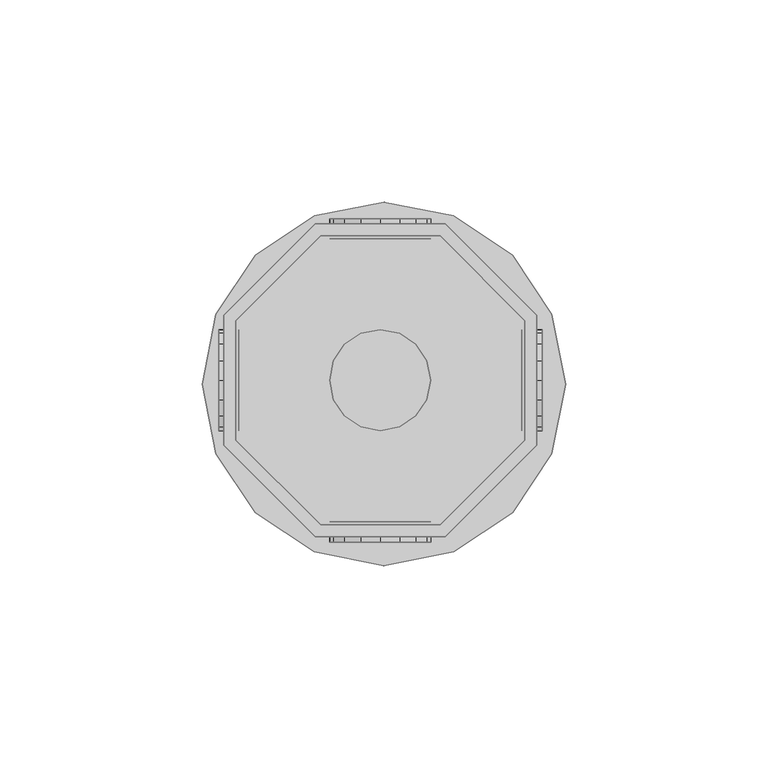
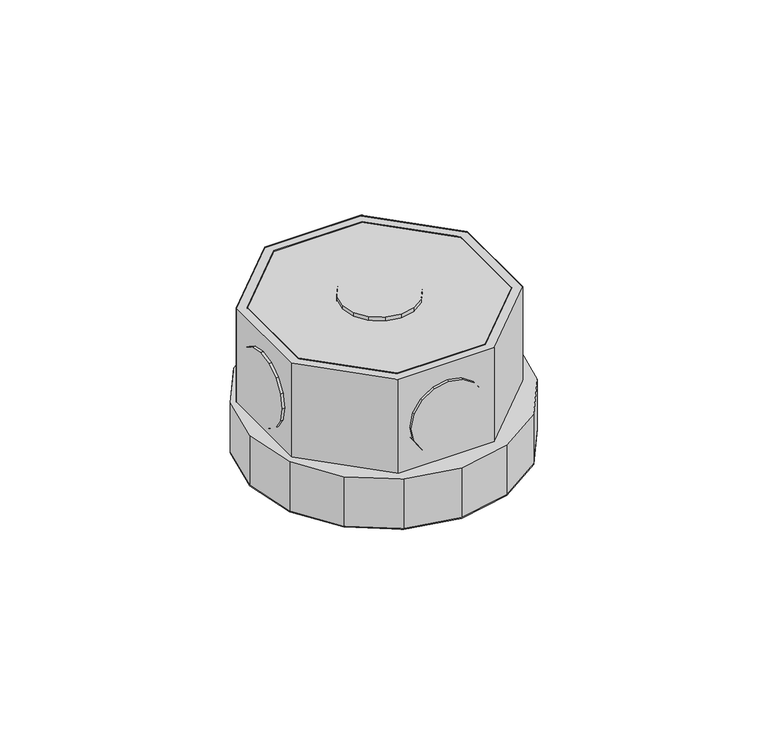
"""IFC4 building model written with IfcOpenShell, lengths in millimetres: light fixture geometry,  212550 :  212550."""

from ifc_helpers import new_model, si_unit, origin, place, context, project, spatial, triangles, source, transform, mapped, element, save


def light_fixture_d3ff9f6c(model_context):
    return source(origin(), model_context, "Body", "Tessellation", [
        triangles([(27650.000647, 17688.1005707, 2924.5999741), (27620.4001282, 17688.1005707, 2975.400071), (27620.4001282, 17688.1005707, 2924.5999741), (27650.000647, 17688.1005707, 2975.400071), (27651.2005737, 17613.6004669, 2924.5999741), (27619.1002075, 17613.6004669, 2975.400071), (27619.1002075, 17613.6004669, 2924.5999741), (27651.2005737, 17613.6004669, 2975.400071), (27599.3990845, 17667.099527, 2975.400071), (27599.3990845, 17667.099527, 2924.5999741), (27673.8991882, 17636.3002441, 2924.5999741), (27673.8991882, 17636.3002441, 2975.400071), (27599.3990845, 17637.5001709, 2975.400071), (27599.3990845, 17637.5001709, 2924.5999741), (27673.8991882, 17668.3994476, 2924.5999741), (27673.8991882, 17668.3994476, 2975.400071), (27620.4001282, 17616.6002838, 2975.400071), (27620.4001282, 17616.6002838, 2924.5999741), (27651.2005737, 17691.1003876, 2924.5999741), (27651.2005737, 17691.1003876, 2975.400071), (27650.000647, 17616.6002838, 2924.5999741), (27650.000647, 17616.6002838, 2975.400071), (27619.1002075, 17691.1003876, 2975.400071), (27619.1002075, 17691.1003876, 2924.5999741), (27670.8993713, 17637.5001709, 2924.5999741), (27670.8993713, 17637.5001709, 2975.400071), (27596.3992676, 17668.3994476, 2975.400071), (27596.3992676, 17668.3994476, 2924.5999741), (27596.3992676, 17636.3002441, 2975.400071), (27670.8993713, 17667.099527, 2975.400071), (27670.8993713, 17667.099527, 2924.5999741), (27596.3992676, 17636.3002441, 2924.5999741), (27599.3990845, 17637.5001709, 2972.3999634), (27620.4001282, 17616.6002838, 2972.3999634), (27650.000647, 17616.6002838, 2972.3999634), (27670.8993713, 17637.5001709, 2972.3999634), (27670.8993713, 17667.099527, 2972.3999634), (27650.000647, 17688.1005707, 2972.3999634), (27620.4001282, 17688.1005707, 2972.3999634), (27599.3990845, 17667.099527, 2972.3999634), (27596.3992676, 17668.3994476, 2942.4000504), (27619.1002075, 17691.1003876, 2942.4000504), (27651.2005737, 17691.1003876, 2942.4000504), (27673.8991882, 17668.3994476, 2942.4000504), (27673.8991882, 17636.3002441, 2942.4000504), (27651.2005737, 17613.6004669, 2942.4000504), (27619.1002075, 17613.6004669, 2942.4000504), (27596.3992676, 17636.3002441, 2942.4000504), (27618.8002258, 17609.89953, 2942.4000504), (27594.4993835, 17634.2003723, 2942.4000504), (27604.2011169, 17619.6001007, 2942.4000504), (27591.0995911, 17651.4004852, 2942.4000504), (27594.4993835, 17668.6994293, 2942.4000504), (27604.2011169, 17683.2997009, 2942.4000504), (27618.8002258, 17693.0002716, 2942.4000504), (27636.0991699, 17696.4000641, 2942.4000504), (27653.3004456, 17693.0002716, 2942.4000504), (27677.5989624, 17668.6994293, 2942.4000504), (27667.8995544, 17683.2997009, 2942.4000504), (27636.0991699, 17606.3997437, 2942.4000504), (27653.3004456, 17609.89953, 2942.4000504), (27667.8995544, 17619.6001007, 2942.4000504), (27677.5989624, 17634.2003723, 2942.4000504), (27681.1010742, 17651.4004852, 2942.4000504), (27594.4993835, 17634.2003723, 2924.5999741), (27618.8002258, 17609.89953, 2924.5999741), (27604.2011169, 17619.6001007, 2924.5999741), (27591.0995911, 17651.4004852, 2924.5999741), (27594.4993835, 17668.6994293, 2924.5999741), (27604.2011169, 17683.2997009, 2924.5999741), (27618.8002258, 17693.0002716, 2924.5999741), (27636.0991699, 17696.4000641, 2924.5999741), (27653.3004456, 17693.0002716, 2924.5999741), (27677.5989624, 17668.6994293, 2924.5999741), (27667.8995544, 17683.2997009, 2924.5999741), (27636.0991699, 17606.3997437, 2924.5999741), (27653.3004456, 17609.89953, 2924.5999741), (27667.8995544, 17619.6001007, 2924.5999741), (27677.5989624, 17634.2003723, 2924.5999741), (27681.1010742, 17651.4004852, 2924.5999741), (27623.5999329, 17692.3003143, 2952.6000092), (27630.3995178, 17692.3003143, 2945.9001274), (27626.2997681, 17692.3003143, 2948.5999626), (27622.6999878, 17692.3003143, 2957.4000069), (27635.1992249, 17692.3003143, 2944.8998978), (27623.5999329, 17692.3003143, 2962.2000046), (27639.9989319, 17692.3003143, 2945.9001274), (27626.2997681, 17692.3003143, 2966.2000511), (27644.0010132, 17692.3003143, 2948.5999626), (27630.3995178, 17692.3003143, 2968.8998863), (27646.7008484, 17692.3003143, 2952.6000092), (27635.1992249, 17692.3003143, 2969.900116), (27647.7007874, 17692.3003143, 2957.4000069), (27639.9989319, 17692.3003143, 2968.8998863), (27646.7008484, 17692.3003143, 2962.2000046), (27644.0010132, 17692.3003143, 2966.2000511), (27630.3995178, 17687.2994568, 2945.9001274), (27623.5999329, 17687.2994568, 2952.6000092), (27626.2997681, 17687.2994568, 2948.5999626), (27635.1992249, 17687.2994568, 2944.8998978), (27622.6999878, 17687.2994568, 2957.4000069), (27639.9989319, 17687.2994568, 2945.9001274), (27623.5999329, 17687.2994568, 2962.2000046), (27644.0010132, 17687.2994568, 2948.5999626), (27626.2997681, 17687.2994568, 2966.2000511), (27630.3995178, 17687.2994568, 2968.8998863), (27646.7008484, 17687.2994568, 2952.6000092), (27635.1992249, 17687.2994568, 2969.900116), (27647.7007874, 17687.2994568, 2957.4000069), (27639.9989319, 17687.2994568, 2968.8998863), (27646.7008484, 17687.2994568, 2962.2000046), (27644.0010132, 17687.2994568, 2966.2000511), (27623.5999329, 17617.3002411, 2952.6000092), (27630.3995178, 17617.3002411, 2945.9001274), (27626.2997681, 17617.3002411, 2948.5999626), (27622.6999878, 17617.3002411, 2957.4000069), (27635.1992249, 17617.3002411, 2944.8998978), (27623.5999329, 17617.3002411, 2962.2000046), (27639.9989319, 17617.3002411, 2945.9001274), (27626.2997681, 17617.3002411, 2966.2000511), (27644.0010132, 17617.3002411, 2948.5999626), (27630.3995178, 17617.3002411, 2968.8998863), (27646.7008484, 17617.3002411, 2952.6000092), (27635.1992249, 17617.3002411, 2969.900116), (27647.7007874, 17617.3002411, 2957.4000069), (27639.9989319, 17617.3002411, 2968.8998863), (27646.7008484, 17617.3002411, 2962.2000046), (27644.0010132, 17617.3002411, 2966.2000511), (27630.3995178, 17612.3005463, 2945.9001274), (27623.5999329, 17612.3005463, 2952.6000092), (27626.2997681, 17612.3005463, 2948.5999626), (27635.1992249, 17612.3005463, 2944.8998978), (27622.6999878, 17612.3005463, 2957.4000069), (27639.9989319, 17612.3005463, 2945.9001274), (27623.5999329, 17612.3005463, 2962.2000046), (27644.0010132, 17612.3005463, 2948.5999626), (27626.2997681, 17612.3005463, 2966.2000511), (27630.3995178, 17612.3005463, 2968.8998863), (27646.7008484, 17612.3005463, 2952.6000092), (27635.1992249, 17612.3005463, 2969.900116), (27647.7007874, 17612.3005463, 2957.4000069), (27639.9989319, 17612.3005463, 2968.8998863), (27646.7008484, 17612.3005463, 2962.2000046), (27644.0010132, 17612.3005463, 2966.2000511), (27600.1990356, 17647.4995605, 2945.9001274), (27600.1990356, 17640.7999695, 2952.6000092), (27600.1990356, 17643.4998047, 2948.5999626), (27600.1990356, 17652.3004303, 2944.8998978), (27600.1990356, 17639.8000305, 2957.4000069), (27600.1990356, 17657.1001373, 2945.9001274), (27600.1990356, 17640.7999695, 2962.2000046), (27600.1990356, 17661.1998871, 2948.5999626), (27600.1990356, 17643.4998047, 2966.2000511), (27600.1990356, 17647.4995605, 2968.8998863), (27600.1990356, 17663.8997223, 2952.6000092), (27600.1990356, 17652.3004303, 2969.900116), (27600.1990356, 17664.7996674, 2957.4000069), (27600.1990356, 17657.1001373, 2968.8998863), (27600.1990356, 17663.8997223, 2962.2000046), (27600.1990356, 17661.1998871, 2966.2000511), (27595.1993408, 17640.7999695, 2952.6000092), (27595.1993408, 17647.4995605, 2945.9001274), (27595.1993408, 17643.4998047, 2948.5999626), (27595.1993408, 17639.8000305, 2957.4000069), (27595.1993408, 17652.3004303, 2944.8998978), (27595.1993408, 17640.7999695, 2962.2000046), (27595.1993408, 17657.1001373, 2945.9001274), (27595.1993408, 17643.4998047, 2966.2000511), (27595.1993408, 17661.1998871, 2948.5999626), (27595.1993408, 17647.4995605, 2968.8998863), (27595.1993408, 17663.8997223, 2952.6000092), (27595.1993408, 17652.3004303, 2969.900116), (27595.1993408, 17664.7996674, 2957.4000069), (27595.1993408, 17657.1001373, 2968.8998863), (27595.1993408, 17663.8997223, 2962.2000046), (27595.1993408, 17661.1998871, 2966.2000511), (27675.1991089, 17647.4995605, 2945.9001274), (27675.1991089, 17640.7999695, 2952.6000092), (27675.1991089, 17643.4998047, 2948.5999626), (27675.1991089, 17652.3004303, 2944.8998978), (27675.1991089, 17639.8000305, 2957.4000069), (27675.1991089, 17657.1001373, 2945.9001274), (27675.1991089, 17640.7999695, 2962.2000046), (27675.1991089, 17661.1998871, 2948.5999626), (27675.1991089, 17643.4998047, 2966.2000511), (27675.1991089, 17647.4995605, 2968.8998863), (27675.1991089, 17663.8997223, 2952.6000092), (27675.1991089, 17652.3004303, 2969.900116), (27675.1991089, 17664.7996674, 2957.4000069), (27675.1991089, 17657.1001373, 2968.8998863), (27675.1991089, 17663.8997223, 2962.2000046), (27675.1991089, 17661.1998871, 2966.2000511), (27670.1994141, 17640.7999695, 2952.6000092), (27670.1994141, 17647.4995605, 2945.9001274), (27670.1994141, 17643.4998047, 2948.5999626), (27670.1994141, 17639.8000305, 2957.4000069), (27670.1994141, 17652.3004303, 2944.8998978), (27670.1994141, 17640.7999695, 2962.2000046), (27670.1994141, 17657.1001373, 2945.9001274), (27670.1994141, 17643.4998047, 2966.2000511), (27670.1994141, 17661.1998871, 2948.5999626), (27670.1994141, 17647.4995605, 2968.8998863), (27670.1994141, 17663.8997223, 2952.6000092), (27670.1994141, 17652.3004303, 2969.900116), (27670.1994141, 17664.7996674, 2957.4000069), (27670.1994141, 17657.1001373, 2968.8998863), (27670.1994141, 17663.8997223, 2962.2000046), (27670.1994141, 17661.1998871, 2966.2000511), (27630.3995178, 17640.7999695, 2976.9999733), (27623.5999329, 17647.4995605, 2976.9999733), (27626.2997681, 17643.4998047, 2976.9999733), (27622.6999878, 17652.3004303, 2976.9999733), (27635.1992249, 17639.8000305, 2976.9999733), (27623.5999329, 17657.1001373, 2976.9999733), (27639.9989319, 17640.7999695, 2976.9999733), (27626.2997681, 17661.1998871, 2976.9999733), (27644.0010132, 17643.4998047, 2976.9999733), (27630.3995178, 17663.8997223, 2976.9999733), (27646.7008484, 17647.4995605, 2976.9999733), (27635.1992249, 17664.7996674, 2976.9999733), (27647.7007874, 17652.3004303, 2976.9999733), (27639.9989319, 17663.8997223, 2976.9999733), (27646.7008484, 17657.1001373, 2976.9999733), (27644.0010132, 17661.1998871, 2976.9999733), (27623.5999329, 17647.4995605, 2971.9999878), (27630.3995178, 17640.7999695, 2971.9999878), (27626.2997681, 17643.4998047, 2971.9999878), (27622.6999878, 17652.3004303, 2971.9999878), (27635.1992249, 17639.8000305, 2971.9999878), (27623.5999329, 17657.1001373, 2971.9999878), (27639.9989319, 17640.7999695, 2971.9999878), (27626.2997681, 17661.1998871, 2971.9999878), (27644.0010132, 17643.4998047, 2971.9999878), (27630.3995178, 17663.8997223, 2971.9999878), (27646.7008484, 17647.4995605, 2971.9999878), (27635.1992249, 17664.7996674, 2971.9999878), (27647.7007874, 17652.3004303, 2971.9999878), (27639.9989319, 17663.8997223, 2971.9999878), (27646.7008484, 17657.1001373, 2971.9999878), (27644.0010132, 17661.1998871, 2971.9999878)], [[1, 2, 3], [2, 1, 4], [5, 6, 7], [6, 5, 8], [3, 9, 10], [9, 3, 2], [11, 8, 5], [8, 11, 12], [10, 13, 14], [13, 10, 9], [15, 12, 11], [12, 15, 16], [14, 17, 18], [17, 14, 13], [19, 16, 15], [16, 19, 20], [17, 21, 18], [21, 17, 22], [23, 19, 24], [19, 23, 20], [22, 25, 21], [25, 22, 26], [27, 24, 28], [24, 27, 23], [6, 13, 29], [29, 13, 27], [27, 13, 9], [27, 9, 23], [23, 9, 2], [23, 2, 4], [23, 4, 20], [20, 4, 30], [8, 17, 6], [6, 17, 13], [17, 8, 22], [12, 22, 8], [22, 12, 26], [30, 26, 12], [16, 30, 12], [20, 30, 16], [30, 1, 31], [1, 30, 4], [6, 32, 7], [32, 6, 29], [32, 14, 7], [28, 14, 32], [14, 28, 10], [24, 10, 28], [10, 24, 3], [1, 3, 24], [19, 1, 24], [31, 1, 19], [7, 18, 5], [14, 18, 7], [5, 18, 21], [5, 21, 11], [11, 21, 25], [11, 25, 31], [11, 31, 15], [15, 31, 19], [26, 31, 25], [31, 26, 30], [29, 28, 32], [28, 29, 27], [17, 33, 34], [33, 17, 13], [35, 17, 34], [17, 35, 22], [36, 22, 35], [22, 36, 26], [37, 26, 36], [26, 37, 30], [38, 30, 37], [30, 38, 4], [2, 38, 39], [38, 2, 4], [17, 9, 13], [9, 17, 22], [9, 22, 2], [2, 22, 26], [2, 26, 4], [4, 26, 30], [13, 40, 33], [40, 13, 9], [40, 34, 33], [35, 34, 40], [35, 40, 39], [35, 39, 36], [36, 39, 38], [36, 38, 37], [9, 39, 40], [39, 9, 2], [24, 41, 28], [41, 24, 42], [19, 42, 24], [42, 19, 43], [44, 19, 15], [19, 44, 43], [45, 15, 11], [15, 45, 44], [46, 11, 5], [11, 46, 45], [47, 5, 7], [5, 47, 46], [32, 47, 7], [47, 32, 48], [28, 48, 32], [48, 28, 41], [49, 50, 51], [48, 50, 49], [50, 48, 52], [41, 52, 48], [52, 41, 53], [53, 41, 54], [42, 54, 41], [54, 42, 55], [55, 42, 43], [55, 43, 56], [56, 43, 57], [57, 43, 44], [57, 44, 58], [57, 58, 59], [47, 49, 60], [49, 47, 48], [47, 60, 46], [61, 46, 60], [46, 61, 62], [46, 62, 45], [45, 62, 63], [44, 45, 63], [44, 63, 64], [44, 64, 58], [65, 66, 67], [66, 65, 32], [68, 32, 65], [32, 68, 28], [28, 68, 69], [70, 28, 69], [28, 70, 24], [71, 24, 70], [19, 24, 71], [19, 71, 72], [73, 19, 72], [19, 73, 15], [74, 15, 73], [74, 73, 75], [76, 66, 7], [32, 7, 66], [5, 76, 7], [76, 5, 77], [77, 5, 78], [11, 78, 5], [78, 11, 79], [79, 11, 15], [79, 15, 80], [80, 15, 74], [57, 75, 73], [75, 57, 59], [56, 73, 72], [73, 56, 57], [55, 72, 71], [72, 55, 56], [54, 71, 70], [71, 54, 55], [53, 70, 69], [70, 53, 54], [52, 69, 68], [69, 52, 53], [50, 68, 65], [68, 50, 52], [51, 65, 67], [65, 51, 50], [66, 51, 67], [51, 66, 49], [76, 49, 66], [49, 76, 60], [77, 60, 76], [60, 77, 61], [78, 61, 77], [61, 78, 62], [79, 62, 78], [62, 79, 63], [80, 63, 79], [63, 80, 64], [75, 58, 74], [58, 75, 59], [74, 64, 80], [64, 74, 58], [81, 82, 83], [82, 81, 84], [85, 82, 84], [85, 84, 86], [87, 85, 86], [87, 86, 88], [87, 88, 89], [89, 88, 90], [89, 90, 91], [91, 90, 92], [91, 92, 93], [93, 92, 94], [93, 94, 95], [95, 94, 96], [97, 98, 99], [98, 97, 100], [101, 98, 100], [101, 100, 102], [103, 101, 102], [103, 102, 104], [103, 104, 105], [105, 104, 106], [106, 104, 107], [106, 107, 108], [108, 107, 109], [108, 109, 110], [110, 109, 111], [110, 111, 112], [87, 104, 102], [104, 87, 89], [85, 102, 100], [102, 85, 87], [82, 100, 97], [100, 82, 85], [83, 97, 99], [97, 83, 82], [98, 83, 99], [83, 98, 81], [101, 81, 98], [81, 101, 84], [103, 84, 101], [84, 103, 86], [105, 86, 103], [86, 105, 88], [106, 88, 105], [88, 106, 90], [108, 90, 106], [90, 108, 92], [110, 92, 108], [92, 110, 94], [112, 94, 110], [94, 112, 96], [95, 112, 111], [112, 95, 96], [93, 111, 109], [111, 93, 95], [89, 107, 104], [107, 89, 91], [91, 109, 107], [109, 91, 93], [113, 114, 115], [114, 113, 116], [117, 114, 116], [117, 116, 118], [119, 117, 118], [119, 118, 120], [119, 120, 121], [121, 120, 122], [121, 122, 123], [123, 122, 124], [123, 124, 125], [125, 124, 126], [125, 126, 127], [127, 126, 128], [129, 130, 131], [130, 129, 132], [133, 130, 132], [133, 132, 134], [135, 133, 134], [135, 134, 136], [135, 136, 137], [137, 136, 138], [138, 136, 139], [138, 139, 140], [140, 139, 141], [140, 141, 142], [142, 141, 143], [142, 143, 144], [119, 136, 134], [136, 119, 121], [117, 134, 132], [134, 117, 119], [114, 132, 129], [132, 114, 117], [115, 129, 131], [129, 115, 114], [130, 115, 131], [115, 130, 113], [133, 113, 130], [113, 133, 116], [135, 116, 133], [116, 135, 118], [137, 118, 135], [118, 137, 120], [138, 120, 137], [120, 138, 122], [140, 122, 138], [122, 140, 124], [142, 124, 140], [124, 142, 126], [144, 126, 142], [126, 144, 128], [127, 144, 143], [144, 127, 128], [125, 143, 141], [143, 125, 127], [121, 139, 136], [139, 121, 123], [123, 141, 139], [141, 123, 125], [145, 146, 147], [146, 145, 148], [149, 146, 148], [149, 148, 150], [151, 149, 150], [151, 150, 152], [151, 152, 153], [153, 152, 154], [154, 152, 155], [154, 155, 156], [156, 155, 157], [156, 157, 158], [158, 157, 159], [158, 159, 160], [161, 162, 163], [162, 161, 164], [165, 162, 164], [165, 164, 166], [167, 165, 166], [167, 166, 168], [169, 167, 168], [169, 168, 170], [169, 170, 171], [171, 170, 172], [171, 172, 173], [173, 172, 174], [173, 174, 175], [175, 174, 176], [158, 176, 174], [176, 158, 160], [156, 174, 172], [174, 156, 158], [154, 172, 170], [172, 154, 156], [153, 170, 168], [170, 153, 154], [151, 168, 166], [168, 151, 153], [149, 166, 164], [166, 149, 151], [146, 164, 161], [164, 146, 149], [147, 161, 163], [161, 147, 146], [162, 147, 163], [147, 162, 145], [165, 145, 162], [145, 165, 148], [167, 148, 165], [148, 167, 150], [169, 150, 167], [150, 169, 152], [171, 152, 169], [152, 171, 155], [173, 155, 171], [155, 173, 157], [176, 159, 175], [159, 176, 160], [175, 157, 173], [157, 175, 159], [177, 178, 179], [178, 177, 180], [181, 178, 180], [181, 180, 182], [183, 181, 182], [183, 182, 184], [183, 184, 185], [185, 184, 186], [186, 184, 187], [186, 187, 188], [188, 187, 189], [188, 189, 190], [190, 189, 191], [190, 191, 192], [193, 194, 195], [194, 193, 196], [197, 194, 196], [197, 196, 198], [199, 197, 198], [199, 198, 200], [201, 199, 200], [201, 200, 202], [201, 202, 203], [203, 202, 204], [203, 204, 205], [205, 204, 206], [205, 206, 207], [207, 206, 208], [190, 208, 206], [208, 190, 192], [188, 206, 204], [206, 188, 190], [186, 204, 202], [204, 186, 188], [185, 202, 200], [202, 185, 186], [183, 200, 198], [200, 183, 185], [181, 198, 196], [198, 181, 183], [178, 196, 193], [196, 178, 181], [179, 193, 195], [193, 179, 178], [194, 179, 195], [179, 194, 177], [197, 177, 194], [177, 197, 180], [199, 180, 197], [180, 199, 182], [201, 182, 199], [182, 201, 184], [203, 184, 201], [184, 203, 187], [205, 187, 203], [187, 205, 189], [208, 191, 207], [191, 208, 192], [207, 189, 205], [189, 207, 191], [209, 210, 211], [212, 210, 209], [212, 209, 213], [214, 212, 213], [214, 213, 215], [216, 214, 215], [216, 215, 217], [216, 217, 218], [218, 217, 219], [218, 219, 220], [220, 219, 221], [220, 221, 222], [222, 221, 223], [222, 223, 224], [225, 226, 227], [226, 225, 228], [229, 226, 228], [229, 228, 230], [231, 229, 230], [231, 230, 232], [231, 232, 233], [233, 232, 234], [233, 234, 235], [235, 234, 236], [235, 236, 237], [237, 236, 238], [237, 238, 239], [239, 238, 240], [222, 240, 238], [240, 222, 224], [220, 238, 236], [238, 220, 222], [218, 236, 234], [236, 218, 220], [216, 234, 232], [234, 216, 218], [214, 232, 230], [232, 214, 216], [212, 230, 228], [230, 212, 214], [210, 228, 225], [228, 210, 212], [211, 225, 227], [225, 211, 210], [226, 211, 227], [211, 226, 209], [229, 209, 226], [209, 229, 213], [231, 213, 229], [213, 231, 215], [233, 215, 231], [215, 233, 217], [235, 217, 233], [217, 235, 219], [237, 219, 235], [219, 237, 221], [240, 223, 239], [223, 240, 224], [239, 221, 237], [221, 239, 223]], closed=False),
    ])


if __name__ == "__main__":
    model = new_model("IFC4")
    model_context = context("Model", 3, world=origin())
    ifc_project = project(units=[si_unit("LENGTHUNIT", "METRE", prefix="MILLI")], contexts=[model_context])
    site = spatial("IfcSite", under=ifc_project)
    building = spatial("IfcBuilding", under=site)
    placement = place(None, origin())
    light_fixture_shape = light_fixture_d3ff9f6c(model_context)
    element("IfcLightFixture", 1, ObjectType=" 212550 :  212550", at=placement, inside=building, context=model_context, shape_type="MappedRepresentation", body=[
        mapped(light_fixture_shape, transform((0.0, 0.0, 0.0), x_axis=(1.0, 0.0, 0.0), y_axis=(0.0, 1.0, 0.0), z_axis=(0.0, 0.0, 1.0))),
    ])
    save(model, "model.ifc")
